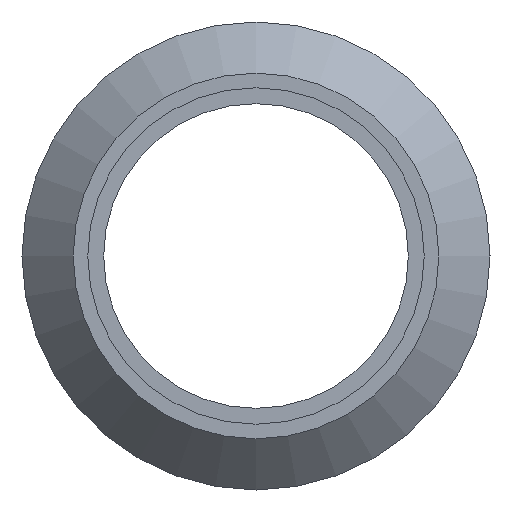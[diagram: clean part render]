
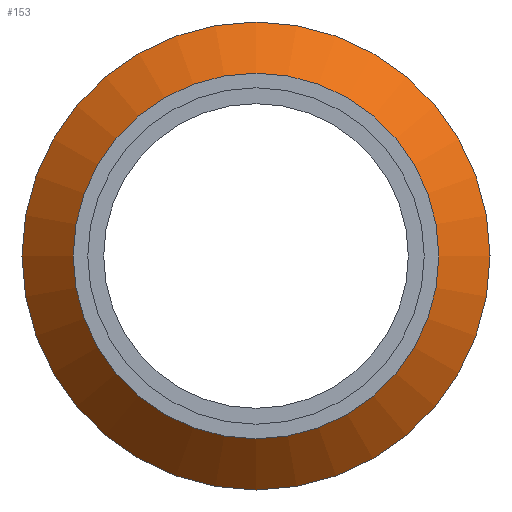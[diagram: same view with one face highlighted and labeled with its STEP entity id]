
A CAD part, left-side view. The second image highlights one B-rep face of the part: STEP entity #153.
In plain terms, the highlighted conical face has half-angle 45 degrees and reference radius 42.75 mm.
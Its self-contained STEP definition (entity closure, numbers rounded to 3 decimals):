
#32=FACE_BOUND($,#69,.T.);
#46=FACE_OUTER_BOUND($,#68,.T.);
#68=EDGE_LOOP($,(#133));
#69=EDGE_LOOP($,(#134));
#84=CIRCLE($,#179,37.5);
#85=CIRCLE($,#181,48.);
#97=VERTEX_POINT($,#270);
#98=VERTEX_POINT($,#273);
#110=EDGE_CURVE($,#97,#97,#84,.T.);
#111=EDGE_CURVE($,#98,#98,#85,.T.);
#133=ORIENTED_EDGE($,*,*,#111,.F.);
#134=ORIENTED_EDGE($,*,*,#110,.T.);
#142=CONICAL_SURFACE($,#180,42.75,45.);
#153=ADVANCED_FACE($,(#46,#32),#142,.T.);
#179=AXIS2_PLACEMENT_3D($,#271,#227,#228);
#180=AXIS2_PLACEMENT_3D($,#272,#229,#230);
#181=AXIS2_PLACEMENT_3D($,#274,#231,#232);
#227=DIRECTION('center_axis',(1.,0.,0.));
#228=DIRECTION('ref_axis',(0.,1.,0.));
#229=DIRECTION('center_axis',(1.,0.,0.));
#230=DIRECTION('ref_axis',(0.,1.,0.));
#231=DIRECTION('center_axis',(1.,0.,0.));
#232=DIRECTION('ref_axis',(0.,1.,0.));
#270=CARTESIAN_POINT('',(141.,37.5,0.));
#271=CARTESIAN_POINT('Origin',(141.,0.,0.));
#272=CARTESIAN_POINT('Origin',(146.25,0.,0.));
#273=CARTESIAN_POINT('',(151.5,48.,0.));
#274=CARTESIAN_POINT('Origin',(151.5,0.,0.));
